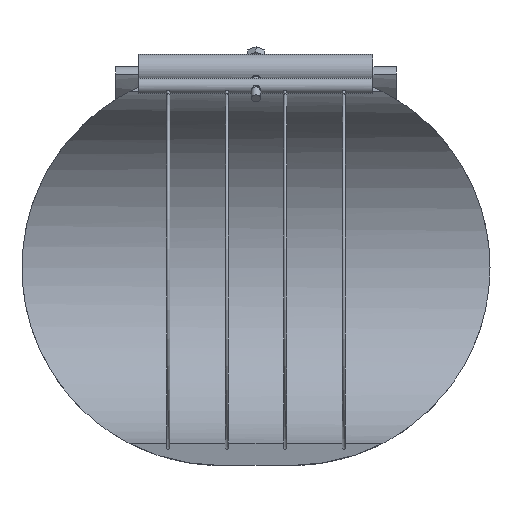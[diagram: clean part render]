
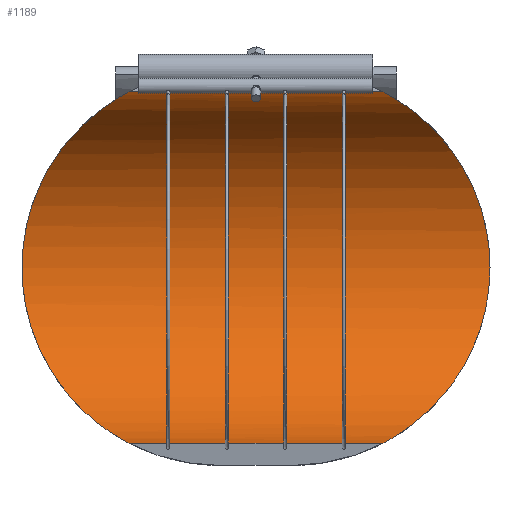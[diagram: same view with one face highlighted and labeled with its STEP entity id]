
A CAD part, front view. The second image highlights one B-rep face of the part: STEP entity #1189.
In plain terms, the highlighted cylindrical face has radius 112.5 mm (diameter 225 mm), a partial arc.
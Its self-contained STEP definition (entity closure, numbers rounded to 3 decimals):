
#125=FACE_OUTER_BOUND('',#203,.T.);
#203=EDGE_LOOP('',(#1060,#1061,#1062,#1063,#1064,#1065,#1066,#1067,#1068,
#1069));
#254=B_SPLINE_CURVE_WITH_KNOTS('',3,(#2682,#2683,#2684,#2685,#2686,#2687,
#2688,#2689,#2690,#2691,#2692,#2693,#2694,#2695,#2696,#2697,#2698,#2699,
#2700,#2701),.UNSPECIFIED.,.F.,.F.,(4,2,2,2,2,2,2,2,2,4),(39.931,
40.331,41.559,42.788,45.246,47.703,
49.98,52.256,54.533,56.81),
 .UNSPECIFIED.);
#255=B_SPLINE_CURVE_WITH_KNOTS('',3,(#2702,#2703,#2704,#2705,#2706,#2707,
#2708,#2709,#2710,#2711,#2712,#2713,#2714,#2715,#2716,#2717,#2718,#2719,
#2720,#2721),.UNSPECIFIED.,.F.,.F.,(4,2,2,2,2,2,2,2,2,4),(56.81,
59.086,61.363,63.64,65.916,68.374,
70.831,72.06,73.289,73.688),
 .UNSPECIFIED.);
#260=B_SPLINE_CURVE_WITH_KNOTS('',3,(#2833,#2834,#2835,#2836,#2837,#2838,
#2839,#2840,#2841,#2842,#2843,#2844,#2845,#2846,#2847,#2848,#2849,#2850,
#2851,#2852),.UNSPECIFIED.,.F.,.F.,(4,2,2,2,2,2,2,2,2,4),(2.058,
2.457,3.686,4.915,7.372,9.83,
12.107,14.383,16.66,18.937),
 .UNSPECIFIED.);
#261=B_SPLINE_CURVE_WITH_KNOTS('',3,(#2854,#2855,#2856,#2857,#2858,#2859,
#2860,#2861,#2862,#2863,#2864,#2865,#2866,#2867,#2868,#2869,#2870,#2871,
#2872,#2873),.UNSPECIFIED.,.F.,.F.,(4,2,2,2,2,2,2,2,2,4),(18.937,
21.213,23.49,25.766,28.043,30.501,
32.958,34.187,35.416,35.815),
 .UNSPECIFIED.);
#338=LINE('',#1987,#399);
#339=LINE('',#1990,#400);
#340=LINE('',#1993,#401);
#341=LINE('',#1995,#402);
#342=LINE('',#1996,#403);
#386=LINE('',#2915,#447);
#399=VECTOR('',#1402,10.);
#400=VECTOR('',#1405,10.);
#401=VECTOR('',#1408,10.);
#402=VECTOR('',#1411,10.);
#403=VECTOR('',#1412,10.);
#447=VECTOR('',#1648,10.);
#477=VERTEX_POINT('',#1975);
#479=VERTEX_POINT('',#1980);
#481=VERTEX_POINT('',#1984);
#482=VERTEX_POINT('',#1986);
#483=VERTEX_POINT('',#1989);
#484=VERTEX_POINT('',#1992);
#552=VERTEX_POINT('',#2679);
#553=VERTEX_POINT('',#2681);
#558=VERTEX_POINT('',#2832);
#559=VERTEX_POINT('',#2853);
#602=EDGE_CURVE('',#482,#481,#338,.T.);
#604=EDGE_CURVE('',#483,#482,#339,.T.);
#606=EDGE_CURVE('',#484,#483,#340,.T.);
#608=EDGE_CURVE('',#477,#484,#341,.T.);
#609=EDGE_CURVE('',#479,#477,#342,.T.);
#725=EDGE_CURVE('',#552,#553,#254,.T.);
#726=EDGE_CURVE('',#553,#481,#255,.T.);
#731=EDGE_CURVE('',#479,#558,#260,.T.);
#732=EDGE_CURVE('',#558,#559,#261,.T.);
#736=EDGE_CURVE('',#552,#559,#386,.T.);
#1060=ORIENTED_EDGE('',*,*,#731,.F.);
#1061=ORIENTED_EDGE('',*,*,#609,.T.);
#1062=ORIENTED_EDGE('',*,*,#608,.T.);
#1063=ORIENTED_EDGE('',*,*,#606,.T.);
#1064=ORIENTED_EDGE('',*,*,#604,.T.);
#1065=ORIENTED_EDGE('',*,*,#602,.T.);
#1066=ORIENTED_EDGE('',*,*,#726,.F.);
#1067=ORIENTED_EDGE('',*,*,#725,.F.);
#1068=ORIENTED_EDGE('',*,*,#736,.T.);
#1069=ORIENTED_EDGE('',*,*,#732,.F.);
#1130=CYLINDRICAL_SURFACE('',#1337,112.5);
#1189=ADVANCED_FACE('',(#125),#1130,.F.);
#1337=AXIS2_PLACEMENT_3D('',#2914,#1646,#1647);
#1402=DIRECTION('',(1.,0.,0.));
#1405=DIRECTION('',(1.,0.,0.));
#1408=DIRECTION('',(1.,0.,0.));
#1411=DIRECTION('',(1.,0.,0.));
#1412=DIRECTION('',(1.,0.,0.));
#1646=DIRECTION('center_axis',(1.,0.,0.));
#1647=DIRECTION('ref_axis',(0.,1.,0.));
#1648=DIRECTION('',(-1.,0.,0.));
#1975=CARTESIAN_POINT('',(-55.313,19.535,-110.791));
#1980=CARTESIAN_POINT('',(-80.004,19.535,-110.791));
#1984=CARTESIAN_POINT('',(80.004,19.535,-110.791));
#1986=CARTESIAN_POINT('',(55.313,19.535,-110.791));
#1987=CARTESIAN_POINT('',(0.,19.535,-110.791));
#1989=CARTESIAN_POINT('',(18.438,19.535,-110.791));
#1990=CARTESIAN_POINT('',(0.,19.535,-110.791));
#1992=CARTESIAN_POINT('',(-18.438,19.535,-110.791));
#1993=CARTESIAN_POINT('',(0.,19.535,-110.791));
#1995=CARTESIAN_POINT('',(0.,19.535,-110.791));
#1996=CARTESIAN_POINT('',(0.,19.535,-110.791));
#2679=CARTESIAN_POINT('',(80.004,19.535,110.791));
#2681=CARTESIAN_POINT('',(147.5,112.5,0.));
#2682=CARTESIAN_POINT('Ctrl Pts',(80.004,19.535,110.791));
#2683=CARTESIAN_POINT('Ctrl Pts',(80.416,20.741,110.578));
#2684=CARTESIAN_POINT('Ctrl Pts',(80.858,21.936,110.347));
#2685=CARTESIAN_POINT('Ctrl Pts',(82.768,26.768,109.332));
#2686=CARTESIAN_POINT('Ctrl Pts',(84.459,30.326,108.397));
#2687=CARTESIAN_POINT('Ctrl Pts',(88.168,37.291,106.202));
#2688=CARTESIAN_POINT('Ctrl Pts',(90.187,40.699,104.943));
#2689=CARTESIAN_POINT('Ctrl Pts',(96.529,50.707,100.686));
#2690=CARTESIAN_POINT('Ctrl Pts',(101.123,57.076,97.213));
#2691=CARTESIAN_POINT('Ctrl Pts',(110.198,69.001,89.145));
#2692=CARTESIAN_POINT('Ctrl Pts',(114.683,74.552,84.547));
#2693=CARTESIAN_POINT('Ctrl Pts',(122.661,84.179,74.92));
#2694=CARTESIAN_POINT('Ctrl Pts',(126.476,88.657,69.622));
#2695=CARTESIAN_POINT('Ctrl Pts',(133.474,96.745,57.858));
#2696=CARTESIAN_POINT('Ctrl Pts',(136.655,100.357,51.39));
#2697=CARTESIAN_POINT('Ctrl Pts',(141.917,106.288,37.62));
#2698=CARTESIAN_POINT('Ctrl Pts',(144.003,108.613,30.301));
#2699=CARTESIAN_POINT('Ctrl Pts',(146.795,111.72,15.285));
#2700=CARTESIAN_POINT('Ctrl Pts',(147.5,112.5,7.589));
#2701=CARTESIAN_POINT('Ctrl Pts',(147.5,112.5,0.));
#2702=CARTESIAN_POINT('Ctrl Pts',(147.5,112.5,0.));
#2703=CARTESIAN_POINT('Ctrl Pts',(147.5,112.5,-7.589));
#2704=CARTESIAN_POINT('Ctrl Pts',(146.795,111.72,-15.285));
#2705=CARTESIAN_POINT('Ctrl Pts',(144.003,108.613,-30.301));
#2706=CARTESIAN_POINT('Ctrl Pts',(141.917,106.288,-37.62));
#2707=CARTESIAN_POINT('Ctrl Pts',(136.655,100.357,-51.39));
#2708=CARTESIAN_POINT('Ctrl Pts',(133.474,96.745,-57.858));
#2709=CARTESIAN_POINT('Ctrl Pts',(126.476,88.657,-69.622));
#2710=CARTESIAN_POINT('Ctrl Pts',(122.661,84.179,-74.92));
#2711=CARTESIAN_POINT('Ctrl Pts',(114.683,74.552,-84.547));
#2712=CARTESIAN_POINT('Ctrl Pts',(110.198,69.001,-89.145));
#2713=CARTESIAN_POINT('Ctrl Pts',(101.123,57.076,-97.213));
#2714=CARTESIAN_POINT('Ctrl Pts',(96.529,50.707,-100.686));
#2715=CARTESIAN_POINT('Ctrl Pts',(90.187,40.699,-104.943));
#2716=CARTESIAN_POINT('Ctrl Pts',(88.168,37.291,-106.202));
#2717=CARTESIAN_POINT('Ctrl Pts',(84.459,30.326,-108.397));
#2718=CARTESIAN_POINT('Ctrl Pts',(82.768,26.768,-109.332));
#2719=CARTESIAN_POINT('Ctrl Pts',(80.858,21.936,-110.347));
#2720=CARTESIAN_POINT('Ctrl Pts',(80.416,20.741,-110.578));
#2721=CARTESIAN_POINT('Ctrl Pts',(80.004,19.535,-110.791));
#2832=CARTESIAN_POINT('',(-147.5,112.5,0.));
#2833=CARTESIAN_POINT('Ctrl Pts',(-80.004,19.535,-110.791));
#2834=CARTESIAN_POINT('Ctrl Pts',(-80.416,20.741,-110.578));
#2835=CARTESIAN_POINT('Ctrl Pts',(-80.858,21.936,-110.347));
#2836=CARTESIAN_POINT('Ctrl Pts',(-82.768,26.768,-109.332));
#2837=CARTESIAN_POINT('Ctrl Pts',(-84.459,30.326,-108.397));
#2838=CARTESIAN_POINT('Ctrl Pts',(-88.168,37.291,-106.202));
#2839=CARTESIAN_POINT('Ctrl Pts',(-90.187,40.699,-104.943));
#2840=CARTESIAN_POINT('Ctrl Pts',(-96.529,50.707,-100.686));
#2841=CARTESIAN_POINT('Ctrl Pts',(-101.123,57.076,-97.213));
#2842=CARTESIAN_POINT('Ctrl Pts',(-110.198,69.001,-89.145));
#2843=CARTESIAN_POINT('Ctrl Pts',(-114.683,74.552,-84.547));
#2844=CARTESIAN_POINT('Ctrl Pts',(-122.661,84.179,-74.92));
#2845=CARTESIAN_POINT('Ctrl Pts',(-126.476,88.657,-69.622));
#2846=CARTESIAN_POINT('Ctrl Pts',(-133.474,96.745,-57.858));
#2847=CARTESIAN_POINT('Ctrl Pts',(-136.655,100.357,-51.39));
#2848=CARTESIAN_POINT('Ctrl Pts',(-141.917,106.288,-37.62));
#2849=CARTESIAN_POINT('Ctrl Pts',(-144.003,108.613,-30.301));
#2850=CARTESIAN_POINT('Ctrl Pts',(-146.795,111.72,-15.285));
#2851=CARTESIAN_POINT('Ctrl Pts',(-147.5,112.5,-7.589));
#2852=CARTESIAN_POINT('Ctrl Pts',(-147.5,112.5,0.));
#2853=CARTESIAN_POINT('',(-80.004,19.535,110.791));
#2854=CARTESIAN_POINT('Ctrl Pts',(-147.5,112.5,0.));
#2855=CARTESIAN_POINT('Ctrl Pts',(-147.5,112.5,7.589));
#2856=CARTESIAN_POINT('Ctrl Pts',(-146.795,111.72,15.285));
#2857=CARTESIAN_POINT('Ctrl Pts',(-144.003,108.613,30.301));
#2858=CARTESIAN_POINT('Ctrl Pts',(-141.917,106.288,37.62));
#2859=CARTESIAN_POINT('Ctrl Pts',(-136.655,100.357,51.39));
#2860=CARTESIAN_POINT('Ctrl Pts',(-133.474,96.745,57.858));
#2861=CARTESIAN_POINT('Ctrl Pts',(-126.476,88.657,69.622));
#2862=CARTESIAN_POINT('Ctrl Pts',(-122.661,84.179,74.92));
#2863=CARTESIAN_POINT('Ctrl Pts',(-114.683,74.552,84.547));
#2864=CARTESIAN_POINT('Ctrl Pts',(-110.198,69.001,89.145));
#2865=CARTESIAN_POINT('Ctrl Pts',(-101.123,57.076,97.213));
#2866=CARTESIAN_POINT('Ctrl Pts',(-96.529,50.707,100.686));
#2867=CARTESIAN_POINT('Ctrl Pts',(-90.187,40.699,104.943));
#2868=CARTESIAN_POINT('Ctrl Pts',(-88.168,37.291,106.202));
#2869=CARTESIAN_POINT('Ctrl Pts',(-84.459,30.326,108.397));
#2870=CARTESIAN_POINT('Ctrl Pts',(-82.768,26.768,109.332));
#2871=CARTESIAN_POINT('Ctrl Pts',(-80.858,21.936,110.347));
#2872=CARTESIAN_POINT('Ctrl Pts',(-80.416,20.741,110.578));
#2873=CARTESIAN_POINT('Ctrl Pts',(-80.004,19.535,110.791));
#2914=CARTESIAN_POINT('Origin',(0.,0.,0.));
#2915=CARTESIAN_POINT('',(0.,19.535,110.791));
